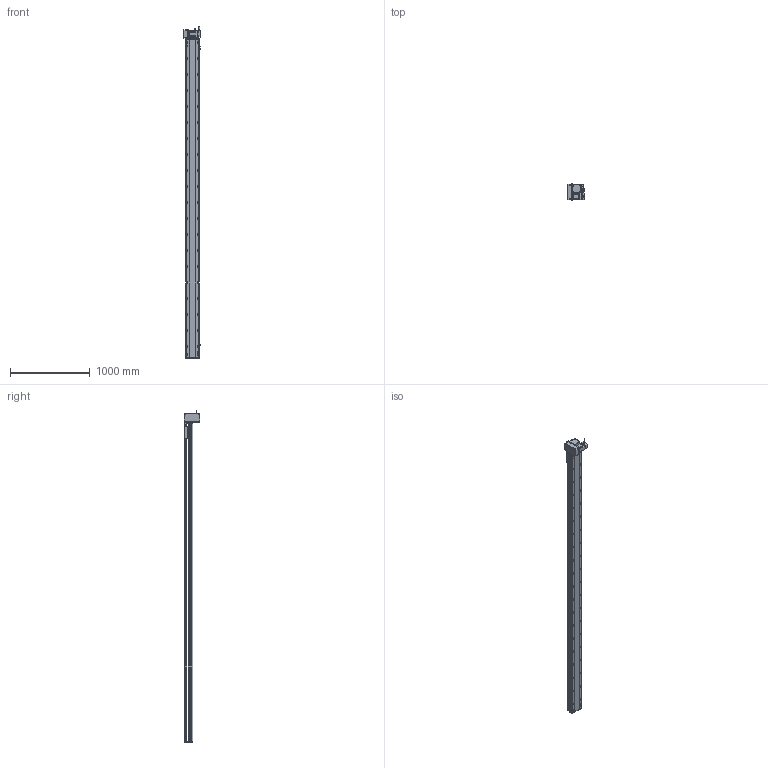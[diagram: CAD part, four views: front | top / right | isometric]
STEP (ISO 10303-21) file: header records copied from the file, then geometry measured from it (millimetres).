
FILE_DESCRIPTION (( 'STEP AP214' ), '1' );
FILE_NAME ('RTB17S-XX-3700-LM-M75-C4.STEP', '2025-12-12T00:53:49', ( '' ), ( '' ), 'SwSTEP 2.0', 'SolidWorks 2018', '' );
FILE_SCHEMA (( 'AUTOMOTIVE_DESIGN' ));
Length unit declared in the file: millimetre
Products named in the file (15): RTB17-R-011菁釱^RTB17S-XX-XX-LM-M75-C4; RTB22S-GY-018P^RTB17S-LM-々湍釱蚾饜-750W_RTB17S-XX-XX-LM-M75-C4; RTB17S-XX-3700-LM-M75-C4; RTB17S-LM-々湍釱蚾饜-750W^RTB17S-XX-XX-LM-M75-C4; RTB22S-GY-017P^RTB17S-LM-々湍釱蚾饜-750W_RTB17S-XX-XX-LM-M75-C4; RTB17S-L-014-T20-P75--々湍釱^RTB17S-LM-々湍釱蚾饜-750W_RTB17S-XX-XX-LM-M75-C4; RTB22S-GY-008-M75--萇儂啣^RTB17S-LM-々湍釱蚾饜-750W_RTB17S-XX-XX-LM-M75-C4; 750W萇儂^RTB17S-XX-XX-LM-M75-C4; RTH13-BL-012覜茼え俋离^RTB17S-賑釱_RTB17S-XX-XX-LM-M75-C4; RTB17S-賑釱^RTB17S-XX-XX-LM-M75-C4; RTB17S-L-007奻裔^RTB17S-XX-XX-LM-M75-C4; RTB22S-GY-005P^RTB17S-LM-々湍釱蚾饜-750W_RTB17S-XX-XX-LM-M75-C4; RTB17S-L-001-耜醱啣^RTB17S-XX-XX-LM-M75-C4; RTB17S-L-004-賑釱^RTB17S-賑釱_RTB17S-XX-XX-LM-M75-C4; EE672^RTB17S-XX-XX-LM-M75-C4
Assembly tree (17 placements, depth 3):
  RTB17S-XX-3700-LM-M75-C4
    RTB17-R-011菁釱^RTB17S-XX-XX-LM-M75-C4
    EE672^RTB17S-XX-XX-LM-M75-C4  x3
    RTB17S-L-001-耜醱啣^RTB17S-XX-XX-LM-M75-C4
    RTB17S-賑釱^RTB17S-XX-XX-LM-M75-C4
      RTB17S-L-004-賑釱^RTB17S-賑釱_RTB17S-XX-XX-LM-M75-C4
      RTH13-BL-012覜茼え俋离^RTB17S-賑釱_RTB17S-XX-XX-LM-M75-C4
    RTB17S-L-007奻裔^RTB17S-XX-XX-LM-M75-C4
    750W萇儂^RTB17S-XX-XX-LM-M75-C4
    RTB17S-LM-々湍釱蚾饜-750W^RTB17S-XX-XX-LM-M75-C4
      RTB17S-L-014-T20-P75--々湍釱^RTB17S-LM-々湍釱蚾饜-750W_RTB17S-XX-XX-LM-M75-C4
      RTB22S-GY-005P^RTB17S-LM-々湍釱蚾饜-750W_RTB17S-XX-XX-LM-M75-C4
      RTB22S-GY-017P^RTB17S-LM-々湍釱蚾饜-750W_RTB17S-XX-XX-LM-M75-C4  x2
      RTB22S-GY-008-M75--萇儂啣^RTB17S-LM-々湍釱蚾饜-750W_RTB17S-XX-XX-LM-M75-C4
      RTB22S-GY-018P^RTB17S-LM-々湍釱蚾饜-750W_RTB17S-XX-XX-LM-M75-C4
Bounding box: 210.4 x 200 x 4152.2 mm (x, y, z)
Volume: 29076646.8 mm3; surface area: 5388307.3 mm2
Topology: 17 solids, 17 shells, 2313 faces, 6538 edges, 4238 vertices
Faces by surface type: plane 998, cylinder 899, bspline 294, cone 110, sphere 8, torus 4
Entity records: 68854 total; most frequent: CARTESIAN_POINT 20602, ORIENTED_EDGE 9920, DIRECTION 9122, EDGE_CURVE 4960, AXIS2_PLACEMENT_3D 3258, VERTEX_POINT 3242, VECTOR 2606, LINE 2606
